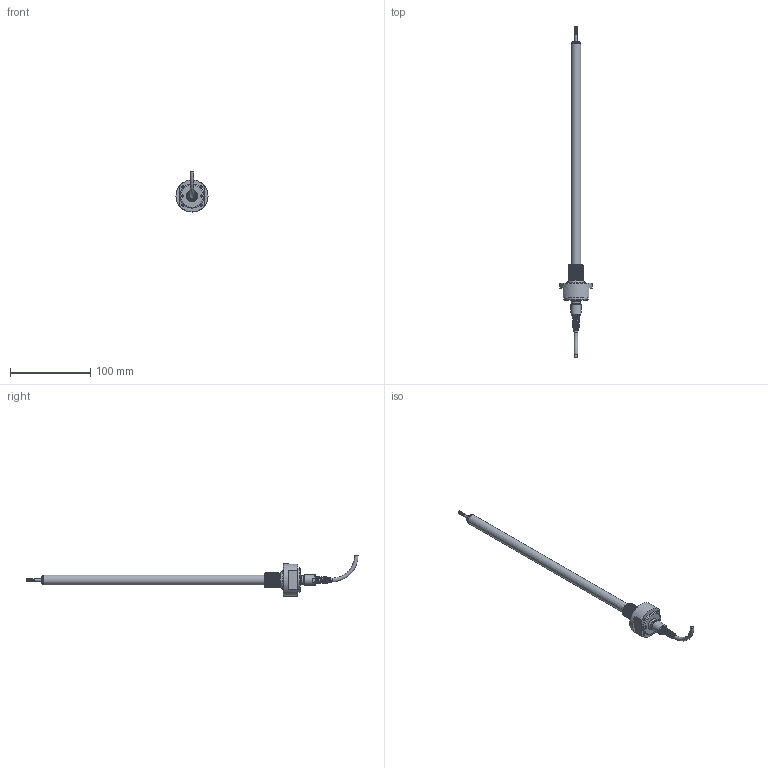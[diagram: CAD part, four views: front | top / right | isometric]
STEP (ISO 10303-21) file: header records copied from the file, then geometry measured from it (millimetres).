
FILE_DESCRIPTION( ( 'STEP AP214' ), '1' );
FILE_NAME( 'N:/Engineering/CAD_Solid/LVDT/HYD/Kunden-3D-Modell/SM180-HYD-18-K.stp', '2011-12-14T13:52:57', ( ' ' ), ( ' ' ), 'XStep 1.0', ' ', ' ' );
FILE_SCHEMA( ( 'CONFIG_CONTROL_DESIGN) ( )' ) );
Length unit declared in the file: metre
Products named in the file (12): 1; 2; 3; 4; 5; 6; 7; 8; 9; 10; 11; 12
Bounding box: 40 x 414.25 x 50 mm (x, y, z)
Volume: 1245.2 mm3; surface area: 23382.3 mm2
Topology: 2 solids, 74 shells, 78 faces, 285 edges, 236 vertices
Faces by surface type: plane 24, cylinder 22, cone 16, bspline 11, torus 5
Full cylindrical faces by diameter (mm): 2.5 x5, 2.6 x2, 3 x1, 4 x1, 4.5 x1, 6 x1, 8 x1, 10.6 x1, 11 x1, 12 x1, 13 x1, 15.8 x1, 24 x1, 30 x1, 40 x1
Entity records: 17548 total; most frequent: CARTESIAN_POINT 14842, DIRECTION 446, ORIENTED_EDGE 212, AXIS2_PLACEMENT_3D 209, EDGE_CURVE 209, VERTEX_POINT 209, CIRCLE 131, EDGE_LOOP 130
